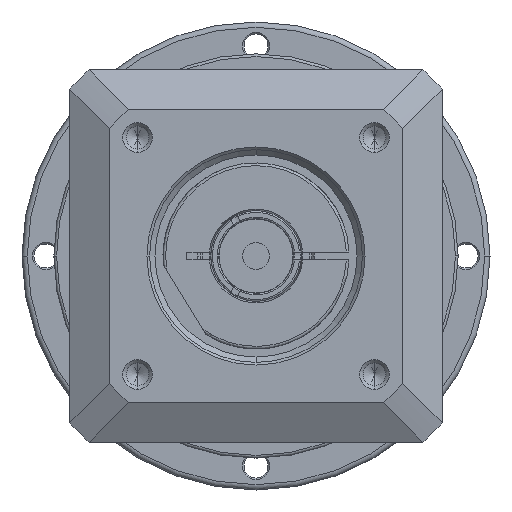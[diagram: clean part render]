
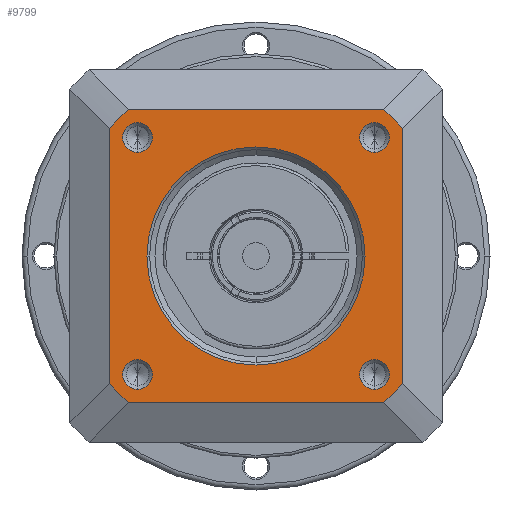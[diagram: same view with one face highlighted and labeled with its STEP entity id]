
A CAD part, left-side view. The second image highlights one B-rep face of the part: STEP entity #9799.
In plain terms, the highlighted planar face has unit normal (-1, 0, 0) as drawn and (0, 0, 1) by its records, which use the part's own axes.
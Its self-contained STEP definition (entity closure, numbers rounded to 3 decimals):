
#8506=CARTESIAN_POINT('',(0.,0.,
25.));
#8507=DIRECTION('',(0.,0.,-1.));
#8508=DIRECTION('',(0.,-1.,0.));
#8509=AXIS2_PLACEMENT_3D('',#8506,#8507,#8508);
#8511=CARTESIAN_POINT('',(0.,0.,
25.));
#8512=DIRECTION('',(0.,0.,-1.));
#8513=DIRECTION('',(0.,1.,0.));
#8514=AXIS2_PLACEMENT_3D('',#8511,#8512,#8513);
#8516=DIRECTION('',(1.,0.,0.));
#8517=VECTOR('',#8516,48.);
#8518=CARTESIAN_POINT('',(-24.,27.5,25.));
#8519=LINE('',#8518,#8517);
#8520=CARTESIAN_POINT('',(0.,0.,25.));
#8521=DIRECTION('',(0.,0.,1.));
#8522=DIRECTION('',(0.753,0.658,0.));
#8523=AXIS2_PLACEMENT_3D('',#8520,#8521,#8522);
#8525=DIRECTION('',(0.,1.,0.));
#8526=VECTOR('',#8525,48.);
#8527=CARTESIAN_POINT('',(27.5,-24.,25.));
#8528=LINE('',#8527,#8526);
#8529=DIRECTION('',(1.,0.,0.));
#8530=VECTOR('',#8529,48.);
#8531=CARTESIAN_POINT('',(-24.,-27.5,25.));
#8532=LINE('',#8531,#8530);
#8533=CARTESIAN_POINT('',(0.,0.,25.));
#8534=DIRECTION('',(0.,0.,1.));
#8535=DIRECTION('',(-0.753,-0.658,0.));
#8536=AXIS2_PLACEMENT_3D('',#8533,#8534,#8535);
#8538=DIRECTION('',(0.,1.,0.));
#8539=VECTOR('',#8538,48.);
#8540=CARTESIAN_POINT('',(-27.5,-24.,25.));
#8541=LINE('',#8540,#8539);
#8556=CARTESIAN_POINT('',(0.,0.,25.));
#8557=DIRECTION('',(0.,0.,1.));
#8558=DIRECTION('',(-0.658,0.753,0.));
#8559=AXIS2_PLACEMENT_3D('',#8556,#8557,#8558);
#8566=CARTESIAN_POINT('',(0.,0.,25.));
#8567=DIRECTION('',(0.,0.,1.));
#8568=DIRECTION('',(0.658,-0.753,0.));
#8569=AXIS2_PLACEMENT_3D('',#8566,#8567,#8568);
#8583=CARTESIAN_POINT('',(-24.,27.5,25.));
#8675=CARTESIAN_POINT('',(27.5,-24.,25.));
#8703=CARTESIAN_POINT('',(24.,-27.5,25.));
#8743=CARTESIAN_POINT('',(-27.5,24.,25.));
#8752=CARTESIAN_POINT('',(-22.274,22.274,25.));
#8753=DIRECTION('',(0.,0.,1.));
#8754=DIRECTION('',(-1.,0.,0.));
#8755=AXIS2_PLACEMENT_3D('',#8752,#8753,#8754);
#8770=CARTESIAN_POINT('',(-22.274,22.274,25.));
#8771=DIRECTION('',(0.,0.,1.));
#8772=DIRECTION('',(1.,0.,0.));
#8773=AXIS2_PLACEMENT_3D('',#8770,#8771,#8772);
#8806=CARTESIAN_POINT('',(22.274,22.274,25.));
#8807=DIRECTION('',(0.,0.,1.));
#8808=DIRECTION('',(-1.,0.,0.));
#8809=AXIS2_PLACEMENT_3D('',#8806,#8807,#8808);
#8824=CARTESIAN_POINT('',(22.274,22.274,25.));
#8825=DIRECTION('',(0.,0.,1.));
#8826=DIRECTION('',(1.,0.,0.));
#8827=AXIS2_PLACEMENT_3D('',#8824,#8825,#8826);
#8860=CARTESIAN_POINT('',(22.274,-22.274,25.));
#8861=DIRECTION('',(0.,0.,1.));
#8862=DIRECTION('',(-1.,0.,0.));
#8863=AXIS2_PLACEMENT_3D('',#8860,#8861,#8862);
#8878=CARTESIAN_POINT('',(22.274,-22.274,25.));
#8879=DIRECTION('',(0.,0.,1.));
#8880=DIRECTION('',(1.,0.,0.));
#8881=AXIS2_PLACEMENT_3D('',#8878,#8879,#8880);
#8914=CARTESIAN_POINT('',(-22.274,-22.274,25.));
#8915=DIRECTION('',(0.,0.,1.));
#8916=DIRECTION('',(-1.,0.,0.));
#8917=AXIS2_PLACEMENT_3D('',#8914,#8915,#8916);
#8932=CARTESIAN_POINT('',(-22.274,-22.274,25.));
#8933=DIRECTION('',(0.,0.,1.));
#8934=DIRECTION('',(1.,0.,0.));
#8935=AXIS2_PLACEMENT_3D('',#8932,#8933,#8934);
#9022=CARTESIAN_POINT('',(-25.074,22.274,25.));
#9023=CARTESIAN_POINT('',(-19.474,22.274,25.));
#9024=VERTEX_POINT('',#9022);
#9025=VERTEX_POINT('',#9023);
#9048=CARTESIAN_POINT('',(-27.5,-24.,25.));
#9049=CARTESIAN_POINT('',(-24.,-27.5,25.));
#9050=VERTEX_POINT('',#9048);
#9051=VERTEX_POINT('',#9049);
#9052=CARTESIAN_POINT('',(27.5,24.,25.));
#9053=CARTESIAN_POINT('',(24.,27.5,25.));
#9054=VERTEX_POINT('',#9052);
#9055=VERTEX_POINT('',#9053);
#9064=VERTEX_POINT('',#8583);
#9067=VERTEX_POINT('',#8675);
#9068=VERTEX_POINT('',#8703);
#9071=VERTEX_POINT('',#8743);
#9080=CARTESIAN_POINT('',(25.074,22.274,25.));
#9081=CARTESIAN_POINT('',(19.474,22.274,25.));
#9082=VERTEX_POINT('',#9080);
#9083=VERTEX_POINT('',#9081);
#9088=CARTESIAN_POINT('',(25.074,-22.274,25.));
#9089=CARTESIAN_POINT('',(19.474,-22.274,25.));
#9090=VERTEX_POINT('',#9088);
#9091=VERTEX_POINT('',#9089);
#9096=CARTESIAN_POINT('',(-19.474,-22.274,25.));
#9097=CARTESIAN_POINT('',(-25.074,-22.274,25.));
#9098=VERTEX_POINT('',#9096);
#9099=VERTEX_POINT('',#9097);
#9104=CARTESIAN_POINT('',(0.,-20.5,25.));
#9105=CARTESIAN_POINT('',(0.,20.5,25.));
#9106=VERTEX_POINT('',#9104);
#9107=VERTEX_POINT('',#9105);
#9747=CARTESIAN_POINT('',(0.,0.,25.));
#9748=DIRECTION('',(0.,0.,1.));
#9749=DIRECTION('',(1.,0.,0.));
#9750=AXIS2_PLACEMENT_3D('',#9747,#9748,#9749);
#9751=PLANE('',#9750);
#9753=ORIENTED_EDGE('',*,*,#9752,.F.);
#9755=ORIENTED_EDGE('',*,*,#9754,.T.);
#9757=ORIENTED_EDGE('',*,*,#9756,.F.);
#9759=ORIENTED_EDGE('',*,*,#9758,.F.);
#9761=ORIENTED_EDGE('',*,*,#9760,.F.);
#9763=ORIENTED_EDGE('',*,*,#9762,.F.);
#9765=ORIENTED_EDGE('',*,*,#9764,.F.);
#9767=ORIENTED_EDGE('',*,*,#9766,.T.);
#9768=EDGE_LOOP('',(#9753,#9755,#9757,#9759,#9761,#9763,#9765,#9767));
#9769=FACE_OUTER_BOUND('',#9768,.F.);
#9770=ORIENTED_EDGE('',*,*,#9737,.F.);
#9772=ORIENTED_EDGE('',*,*,#9771,.F.);
#9773=EDGE_LOOP('',(#9770,#9772));
#9774=FACE_BOUND('',#9773,.F.);
#9776=ORIENTED_EDGE('',*,*,#9775,.T.);
#9778=ORIENTED_EDGE('',*,*,#9777,.T.);
#9779=EDGE_LOOP('',(#9776,#9778));
#9780=FACE_BOUND('',#9779,.F.);
#9782=ORIENTED_EDGE('',*,*,#9781,.T.);
#9784=ORIENTED_EDGE('',*,*,#9783,.T.);
#9785=EDGE_LOOP('',(#9782,#9784));
#9786=FACE_BOUND('',#9785,.F.);
#9788=ORIENTED_EDGE('',*,*,#9787,.T.);
#9790=ORIENTED_EDGE('',*,*,#9789,.T.);
#9791=EDGE_LOOP('',(#9788,#9790));
#9792=FACE_BOUND('',#9791,.F.);
#9794=ORIENTED_EDGE('',*,*,#9793,.T.);
#9796=ORIENTED_EDGE('',*,*,#9795,.T.);
#9797=EDGE_LOOP('',(#9794,#9796));
#9798=FACE_BOUND('',#9797,.F.);
#9799=ADVANCED_FACE('',(#9769,#9774,#9780,#9786,#9792,#9798),#9751,.T.);
#8510=CIRCLE('',#8509,20.5);
#8515=CIRCLE('',#8514,20.5);
#8524=CIRCLE('',#8523,36.5);
#8537=CIRCLE('',#8536,36.5);
#8560=CIRCLE('',#8559,36.5);
#8570=CIRCLE('',#8569,36.5);
#8756=CIRCLE('',#8755,2.8);
#8774=CIRCLE('',#8773,2.8);
#8810=CIRCLE('',#8809,2.8);
#8828=CIRCLE('',#8827,2.8);
#8864=CIRCLE('',#8863,2.8);
#8882=CIRCLE('',#8881,2.8);
#8918=CIRCLE('',#8917,2.8);
#8936=CIRCLE('',#8935,2.8);
#9737=EDGE_CURVE('',#9106,#9107,#8510,.T.);
#9752=EDGE_CURVE('',#9064,#9071,#8560,.T.);
#9754=EDGE_CURVE('',#9064,#9055,#8519,.T.);
#9756=EDGE_CURVE('',#9054,#9055,#8524,.T.);
#9758=EDGE_CURVE('',#9067,#9054,#8528,.T.);
#9760=EDGE_CURVE('',#9068,#9067,#8570,.T.);
#9762=EDGE_CURVE('',#9051,#9068,#8532,.T.);
#9764=EDGE_CURVE('',#9050,#9051,#8537,.T.);
#9766=EDGE_CURVE('',#9050,#9071,#8541,.T.);
#9771=EDGE_CURVE('',#9107,#9106,#8515,.T.);
#9775=EDGE_CURVE('',#9024,#9025,#8756,.T.);
#9777=EDGE_CURVE('',#9025,#9024,#8774,.T.);
#9781=EDGE_CURVE('',#9083,#9082,#8810,.T.);
#9783=EDGE_CURVE('',#9082,#9083,#8828,.T.);
#9787=EDGE_CURVE('',#9091,#9090,#8864,.T.);
#9789=EDGE_CURVE('',#9090,#9091,#8882,.T.);
#9793=EDGE_CURVE('',#9099,#9098,#8918,.T.);
#9795=EDGE_CURVE('',#9098,#9099,#8936,.T.);
